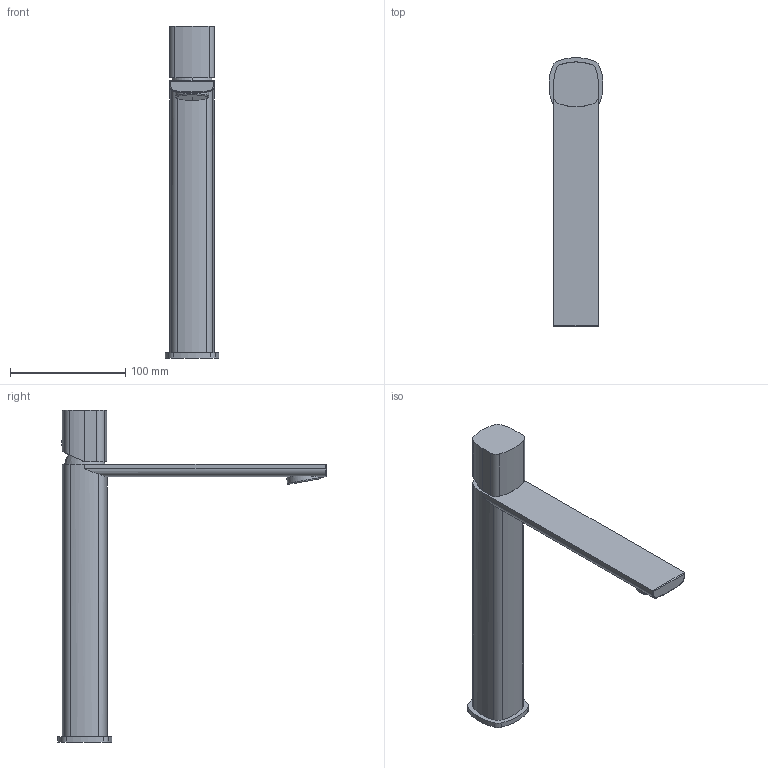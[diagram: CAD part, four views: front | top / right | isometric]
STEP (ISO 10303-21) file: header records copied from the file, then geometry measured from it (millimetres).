
FILE_DESCRIPTION(('FreeCAD Model'),'2;1');
FILE_NAME('Open CASCADE Shape Model','2024-11-19T13:54:53',('Author'),( ''),'Open CASCADE STEP processor 7.6','FreeCAD','Unknown');
FILE_SCHEMA(('AUTOMOTIVE_DESIGN { 1 0 10303 214 1 1 1 1 }'));
Length unit declared in the file: millimetre
Products named in the file (3): TopLevelAssembly; Obrót profilu; Połączona geometria bryłowa
Assembly tree (2 placements, depth 2):
  TopLevelAssembly
    Obrót profilu
    Połączona geometria bryłowa
Bounding box: 46.88 x 233.44 x 288.29 mm (x, y, z)
Volume: 461582.4 mm3; surface area: 61115.6 mm2
Topology: 2 solids, 2 shells, 63 faces, 152 edges, 94 vertices
Faces by surface type: cylinder 37, plane 17, bspline 9
Entity records: 2092 total; most frequent: CARTESIAN_POINT 569, DIRECTION 324, ORIENTED_EDGE 300, EDGE_CURVE 150, AXIS2_PLACEMENT_3D 134, VERTEX_POINT 94, CIRCLE 70, FACE_BOUND 66
